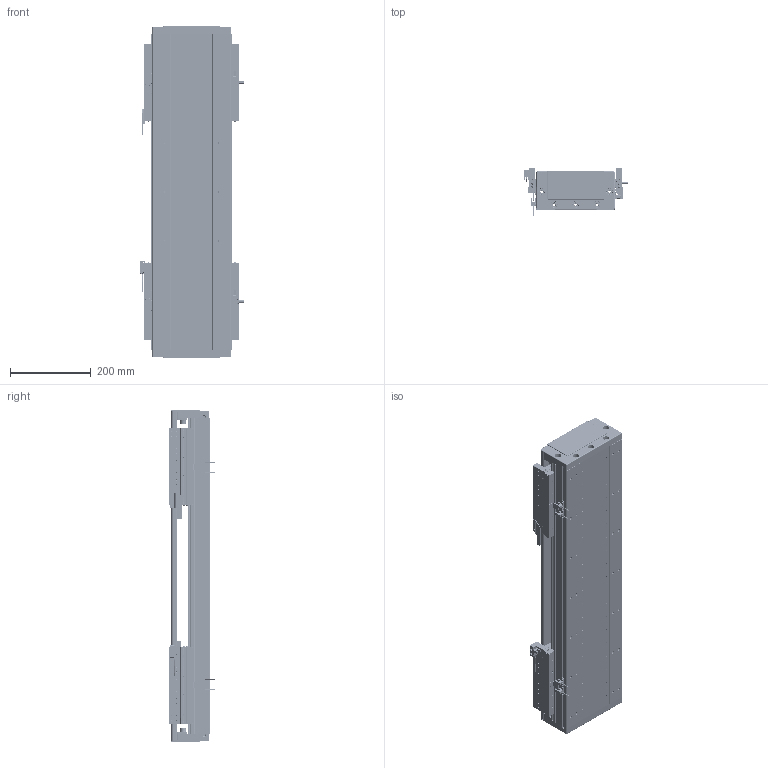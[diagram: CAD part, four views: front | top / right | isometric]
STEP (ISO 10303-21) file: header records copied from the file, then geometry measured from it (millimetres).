
FILE_DESCRIPTION (( 'STEP AP203' ), '1' );
FILE_NAME ('DA-C195-2-C2-T320-C010-0.2 眻盄萇儂.STEP', '2025-08-14T01:47:14', ( '' ), ( '' ), 'SwSTEP 2.0', 'SolidWorks 2019', '' );
FILE_SCHEMA (( 'CONFIG_CONTROL_DESIGN' ));
Length unit declared in the file: millimetre
Products named in the file (16): DA195-DG-H-00  端盖（压铸镂空版）; IU-CU195-L 菁釱絳寢; IU-CU195-L-00 菁釱(L780); 66156-0001-005-00 光电感应片(默认); CU195-C2賑輸-俋楷; DA-C195-2-C2-T320-C010-0.2 眻盄萇儂; MS200 棠掑喜S315-T240; DKW-GYP-ZJ-00 笢潔嫖萇覜茼え; 葩璃 DA95-GT-T-00; DKW-KGZ-ZJ-00 中间光电开关支架; PM-Y65嫖萇羲壽郪璃; PM-T45ㄗ侂狟ㄘ; DA95-HXJ-00 遣喳砎蝶; 66156-0001-003-00 裔啣; LMT黍杅芛; DKW168-HXJ-ZJ-00 笢潔滅袉砎蝶
Assembly tree (28 placements, depth 3):
  DA-C195-2-C2-T320-C010-0.2 眻盄萇儂
    IU-CU195-L 菁釱絳寢
      IU-CU195-L-00 菁釱(L780)
      葩璃 DA95-GT-T-00  x4
    LMT黍杅芛  x2
    MS200 棠掑喜S315-T240
    PM-T45ㄗ侂狟ㄘ  x4
    66156-0001-005-00 光电感应片(默认)  x2
    DA195-DG-H-00  端盖（压铸镂空版）  x2
    DA95-HXJ-00 遣喳砎蝶  x4
    PM-Y65嫖萇羲壽郪璃
    66156-0001-003-00 裔啣
    DKW168-HXJ-ZJ-00 笢潔滅袉砎蝶
    DKW-GYP-ZJ-00 笢潔嫖萇覜茼え
    DKW-KGZ-ZJ-00 中间光电开关支架
    CU195-C2賑輸-俋楷  x2
Bounding box: 258.2 x 115.6 x 820 mm (x, y, z)
Volume: 7417312.5 mm3; surface area: 2030762.2 mm2
Topology: 106 solids, 242 shells, 7728 faces, 19200 edges, 11635 vertices
Faces by surface type: cylinder 3058, plane 2854, cone 946, bspline 718, torus 80, sphere 72
Entity records: 148253 total; most frequent: CARTESIAN_POINT 44628, ORIENTED_EDGE 21402, DIRECTION 20706, EDGE_CURVE 10701, AXIS2_PLACEMENT_3D 7535, VERTEX_POINT 6750, VECTOR 5636, LINE 5636
